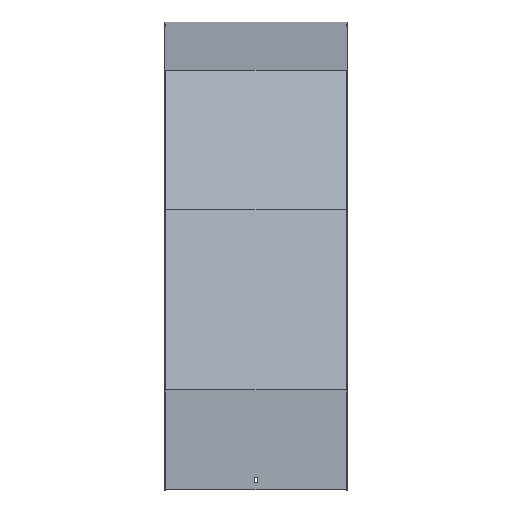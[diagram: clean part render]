
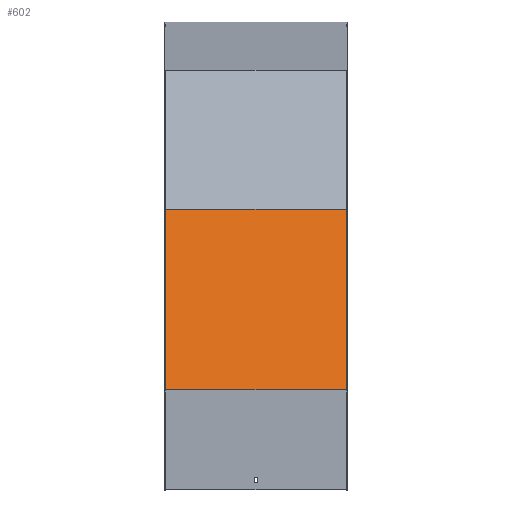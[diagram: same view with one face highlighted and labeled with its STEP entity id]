
A CAD part, top view. The second image highlights one B-rep face of the part: STEP entity #602.
In plain terms, the highlighted planar face has unit normal (0, 0.259, 0.966).
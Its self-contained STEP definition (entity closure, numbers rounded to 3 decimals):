
#31 = CARTESIAN_POINT ( 'NONE',  ( -151.5, -298.106, 700.854 ) ) ;
#44 = CARTESIAN_POINT ( 'NONE',  ( 151.5, -593.325, 779.958 ) ) ;
#46 = VECTOR ( 'NONE', #779, 1000. ) ;
#114 = VECTOR ( 'NONE', #242, 1000. ) ;
#118 = DIRECTION ( 'NONE',  ( 0., -0.966, 0.259 ) ) ;
#136 = VECTOR ( 'NONE', #118, 1000. ) ;
#140 = DIRECTION ( 'NONE',  ( -1., 0., 0. ) ) ;
#179 = EDGE_CURVE ( 'NONE', #652, #416, #509, .T. ) ;
#196 = ORIENTED_EDGE ( 'NONE', *, *, #650, .F. ) ;
#242 = DIRECTION ( 'NONE',  ( -1., 0., 0. ) ) ;
#297 = AXIS2_PLACEMENT_3D ( 'NONE', #987, #899, #815 ) ;
#326 = EDGE_CURVE ( 'NONE', #1061, #1037, #894, .T. ) ;
#334 = CARTESIAN_POINT ( 'NONE',  ( -151.5, -292.929, 699.467 ) ) ;
#359 = ORIENTED_EDGE ( 'NONE', *, *, #326, .T. ) ;
#373 = LINE ( 'NONE', #729, #759 ) ;
#402 = CARTESIAN_POINT ( 'NONE',  ( 151.5, -292.929, 699.467 ) ) ;
#416 = VERTEX_POINT ( 'NONE', #565 ) ;
#445 = EDGE_LOOP ( 'NONE', ( #359, #196, #988, #474 ) ) ;
#474 = ORIENTED_EDGE ( 'NONE', *, *, #614, .T. ) ;
#509 = LINE ( 'NONE', #794, #46 ) ;
#565 = CARTESIAN_POINT ( 'NONE',  ( 151.5, -593.325, 779.958 ) ) ;
#574 = LINE ( 'NONE', #44, #114 ) ;
#602 = ADVANCED_FACE ( 'NONE', ( #1064 ), #631, .F. ) ;
#614 = EDGE_CURVE ( 'NONE', #652, #1061, #373, .T. ) ;
#631 = PLANE ( 'NONE',  #297 ) ;
#650 = EDGE_CURVE ( 'NONE', #416, #1037, #574, .T. ) ;
#652 = VERTEX_POINT ( 'NONE', #402 ) ;
#729 = CARTESIAN_POINT ( 'NONE',  ( 151.5, -292.929, 699.467 ) ) ;
#759 = VECTOR ( 'NONE', #140, 1000. ) ;
#779 = DIRECTION ( 'NONE',  ( 0., -0.966, 0.259 ) ) ;
#794 = CARTESIAN_POINT ( 'NONE',  ( 151.5, -298.106, 700.854 ) ) ;
#815 = DIRECTION ( 'NONE',  ( 0., 0.966, -0.259 ) ) ;
#865 = CARTESIAN_POINT ( 'NONE',  ( -151.5, -593.325, 779.958 ) ) ;
#894 = LINE ( 'NONE', #31, #136 ) ;
#899 = DIRECTION ( 'NONE',  ( 0., -0.259, -0.966 ) ) ;
#987 = CARTESIAN_POINT ( 'NONE',  ( 151.5, -298.106, 700.854 ) ) ;
#988 = ORIENTED_EDGE ( 'NONE', *, *, #179, .F. ) ;
#1037 = VERTEX_POINT ( 'NONE', #865 ) ;
#1061 = VERTEX_POINT ( 'NONE', #334 ) ;
#1064 = FACE_OUTER_BOUND ( 'NONE', #445, .T. ) ;
